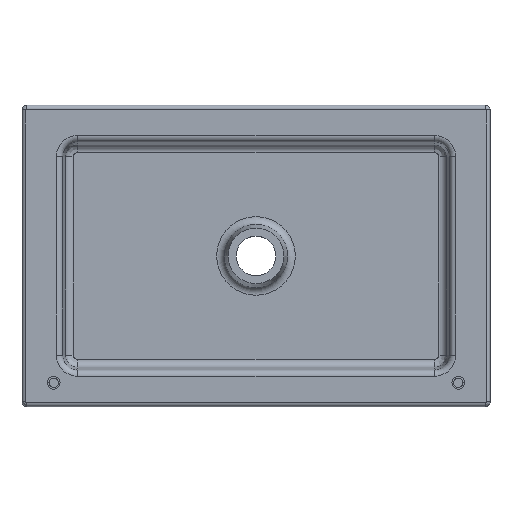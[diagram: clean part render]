
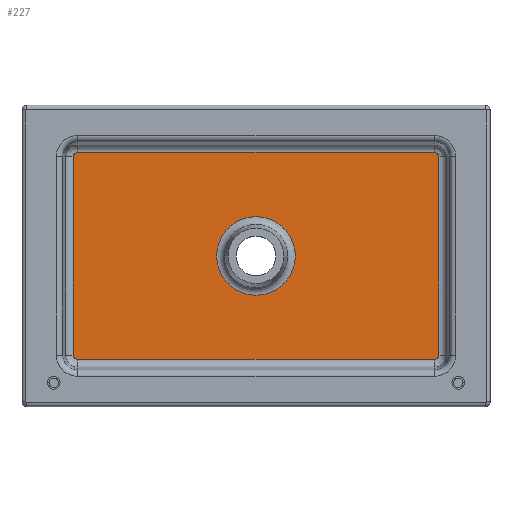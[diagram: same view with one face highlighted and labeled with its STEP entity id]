
A CAD part, top view. The second image highlights one B-rep face of the part: STEP entity #227.
In plain terms, the highlighted planar face has unit normal (0, 0, 1).
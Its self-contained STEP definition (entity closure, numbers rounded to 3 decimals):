
#227 = ADVANCED_FACE( '', ( #491, #492 ), #493, .T. );
#491 = FACE_BOUND( '', #1324, .T. );
#492 = FACE_OUTER_BOUND( '', #1325, .T. );
#493 = PLANE( '', #1326 );
#1324 = EDGE_LOOP( '', ( #1912 ) );
#1325 = EDGE_LOOP( '', ( #1913, #1914, #1915, #1916, #1917, #1918, #1919, #1920 ) );
#1326 = AXIS2_PLACEMENT_3D( '', #1921, #1922, #1923 );
#1912 = ORIENTED_EDGE( '', *, *, #2354, .T. );
#1913 = ORIENTED_EDGE( '', *, *, #2336, .T. );
#1914 = ORIENTED_EDGE( '', *, *, #2372, .T. );
#1915 = ORIENTED_EDGE( '', *, *, #2327, .T. );
#1916 = ORIENTED_EDGE( '', *, *, #2373, .T. );
#1917 = ORIENTED_EDGE( '', *, *, #2287, .T. );
#1918 = ORIENTED_EDGE( '', *, *, #2374, .T. );
#1919 = ORIENTED_EDGE( '', *, *, #2375, .T. );
#1920 = ORIENTED_EDGE( '', *, *, #2265, .T. );
#1921 = CARTESIAN_POINT( '', ( -225., -125., 95. ) );
#1922 = DIRECTION( '', ( 0., 0., 1. ) );
#1923 = DIRECTION( '', ( 1., 0., 0. ) );
#2265 = EDGE_CURVE( '', #2583, #2588, #2590, .T. );
#2287 = EDGE_CURVE( '', #2622, #2620, #2623, .T. );
#2327 = EDGE_CURVE( '', #2682, #2680, #2683, .T. );
#2336 = EDGE_CURVE( '', #2588, #2693, #2695, .T. );
#2354 = EDGE_CURVE( '', #2715, #2715, #2716, .F. );
#2372 = EDGE_CURVE( '', #2693, #2682, #2736, .T. );
#2373 = EDGE_CURVE( '', #2680, #2622, #2737, .T. );
#2374 = EDGE_CURVE( '', #2620, #2738, #2739, .T. );
#2375 = EDGE_CURVE( '', #2738, #2583, #2740, .T. );
#2583 = VERTEX_POINT( '', #2984 );
#2588 = VERTEX_POINT( '', #2990 );
#2590 = LINE( '', #2992, #2993 );
#2620 = VERTEX_POINT( '', #3027 );
#2622 = VERTEX_POINT( '', #3029 );
#2623 = CIRCLE( '', #3030, 5.438 );
#2680 = VERTEX_POINT( '', #3099 );
#2682 = VERTEX_POINT( '', #3101 );
#2683 = CIRCLE( '', #3102, 5.438 );
#2693 = VERTEX_POINT( '', #3112 );
#2695 = CIRCLE( '', #3114, 5.438 );
#2715 = VERTEX_POINT( '', #3141 );
#2716 = CIRCLE( '', #3142, 49.562 );
#2736 = LINE( '', #3165, #3166 );
#2737 = LINE( '', #3167, #3168 );
#2738 = VERTEX_POINT( '', #3169 );
#2739 = LINE( '', #3170, #3171 );
#2740 = CIRCLE( '', #3172, 5.438 );
#2984 = CARTESIAN_POINT( '', ( -225., -130.438, 95. ) );
#2990 = CARTESIAN_POINT( '', ( 225., -130.438, 95. ) );
#2992 = CARTESIAN_POINT( '', ( -225., -130.438, 95. ) );
#2993 = VECTOR( '', #3390, 1000. );
#3027 = CARTESIAN_POINT( '', ( -230.438, 125., 95. ) );
#3029 = CARTESIAN_POINT( '', ( -225., 130.438, 95. ) );
#3030 = AXIS2_PLACEMENT_3D( '', #3428, #3429, #3430 );
#3099 = CARTESIAN_POINT( '', ( 225., 130.438, 95. ) );
#3101 = CARTESIAN_POINT( '', ( 230.438, 125., 95. ) );
#3102 = AXIS2_PLACEMENT_3D( '', #3497, #3498, #3499 );
#3112 = CARTESIAN_POINT( '', ( 230.438, -125., 95. ) );
#3114 = AXIS2_PLACEMENT_3D( '', #3518, #3519, #3520 );
#3141 = CARTESIAN_POINT( '', ( 49.562, 0., 95. ) );
#3142 = AXIS2_PLACEMENT_3D( '', #3537, #3538, #3539 );
#3165 = CARTESIAN_POINT( '', ( 230.438, -125., 95. ) );
#3166 = VECTOR( '', #3561, 1000. );
#3167 = CARTESIAN_POINT( '', ( -225., 130.438, 95. ) );
#3168 = VECTOR( '', #3562, 1000. );
#3169 = CARTESIAN_POINT( '', ( -230.438, -125., 95. ) );
#3170 = CARTESIAN_POINT( '', ( -230.438, -125., 95. ) );
#3171 = VECTOR( '', #3563, 1000. );
#3172 = AXIS2_PLACEMENT_3D( '', #3564, #3565, #3566 );
#3390 = DIRECTION( '', ( 1., 0., 0. ) );
#3428 = CARTESIAN_POINT( '', ( -225., 125., 95. ) );
#3429 = DIRECTION( '', ( 0., 0., 1. ) );
#3430 = DIRECTION( '', ( 1., 0., 0. ) );
#3497 = CARTESIAN_POINT( '', ( 225., 125., 95. ) );
#3498 = DIRECTION( '', ( 0., 0., 1. ) );
#3499 = DIRECTION( '', ( 1., 0., 0. ) );
#3518 = CARTESIAN_POINT( '', ( 225., -125., 95. ) );
#3519 = DIRECTION( '', ( 0., 0., 1. ) );
#3520 = DIRECTION( '', ( 1., 0., 0. ) );
#3537 = CARTESIAN_POINT( '', ( 0., 0., 95. ) );
#3538 = DIRECTION( '', ( 0., 0., 1. ) );
#3539 = DIRECTION( '', ( 1., 0., 0. ) );
#3561 = DIRECTION( '', ( 0., 1., 0. ) );
#3562 = DIRECTION( '', ( -1., 0., 0. ) );
#3563 = DIRECTION( '', ( 0., -1., 0. ) );
#3564 = CARTESIAN_POINT( '', ( -225., -125., 95. ) );
#3565 = DIRECTION( '', ( 0., 0., 1. ) );
#3566 = DIRECTION( '', ( 1., 0., 0. ) );
